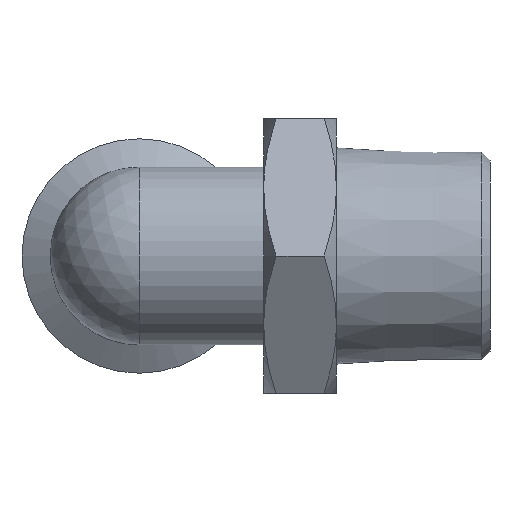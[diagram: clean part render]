
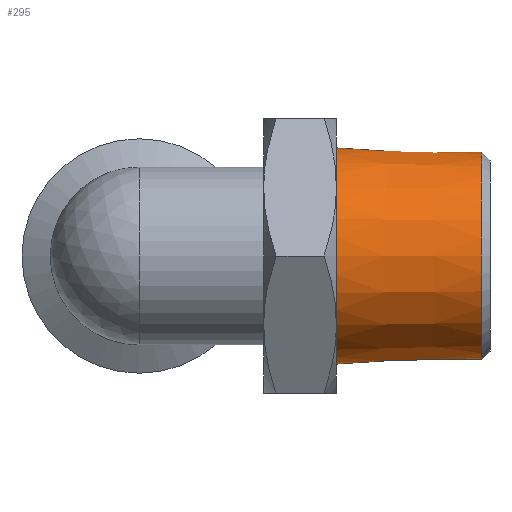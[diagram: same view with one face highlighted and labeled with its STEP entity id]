
A CAD part, left-side view. The second image highlights one B-rep face of the part: STEP entity #295.
In plain terms, the highlighted conical face has half-angle 1.78 degrees and reference radius 6.54 mm.
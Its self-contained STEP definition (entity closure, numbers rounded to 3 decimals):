
#264=CARTESIAN_POINT('',(-6.408,-21.2,0.));
#265=VERTEX_POINT('',#264);
#266=CARTESIAN_POINT('',(0.0,-21.2,0.));
#267=DIRECTION('',(0.0,-1.0,0.0));
#268=DIRECTION('',(1.0,0.0,0.0));
#269=AXIS2_PLACEMENT_3D('',#266,#267,#268);
#270=CIRCLE('',#269,6.408);
#271=EDGE_CURVE('',#265,#265,#270,.T.);
#276=CARTESIAN_POINT('',(0.0,-16.95,0.0));
#277=DIRECTION('',(0.0,1.0,0.0));
#278=DIRECTION('',(-1.0,0.0,0.0));
#279=AXIS2_PLACEMENT_3D('',#276,#277,#278);
#280=CONICAL_SURFACE('',#279,6.54,1.78);
#281=CARTESIAN_POINT('',(-6.687,-12.2,0.0));
#282=VERTEX_POINT('',#281);
#283=CARTESIAN_POINT('',(0.0,-12.2,0.0));
#284=DIRECTION('',(0.0,1.0,0.0));
#285=DIRECTION('',(-1.0,0.0,0.0));
#286=AXIS2_PLACEMENT_3D('',#283,#284,#285);
#287=CIRCLE('',#286,6.687);
#288=EDGE_CURVE('',#282,#282,#287,.T.);
#289=ORIENTED_EDGE('',*,*,#288,.F.);
#290=EDGE_LOOP('',(#289));
#291=FACE_OUTER_BOUND('',#290,.T.);
#292=ORIENTED_EDGE('',*,*,#271,.F.);
#293=EDGE_LOOP('',(#292));
#294=FACE_BOUND('',#293,.T.);
#295=ADVANCED_FACE('',(#291,#294),#280,.T.);
